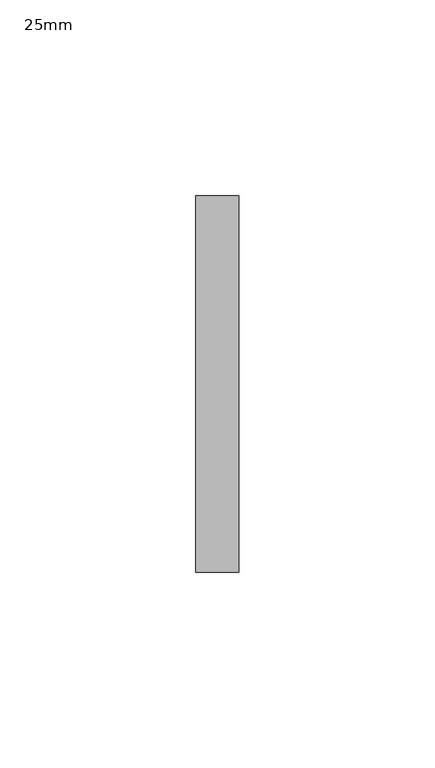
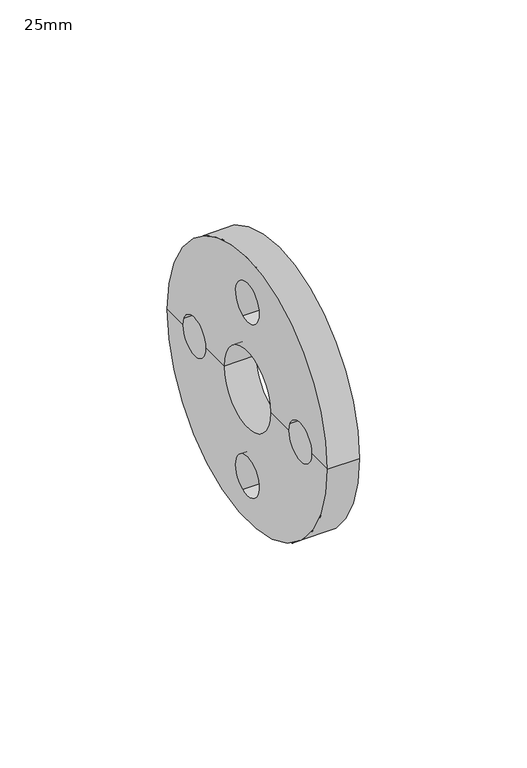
"""IFC4 building model written with IfcOpenShell, lengths in millimetres: pipe fitting geometry, Durapipe_PipeFitting_PVC_BackingFlange : 25mm."""

from ifc_helpers import new_model, si_unit, frame, origin, place, context, project, spatial, polyline, circle_curve, source, transform, mapped, element, save
from ifc_brep_helpers import plane_surface, cylinder_surface, revolved_surface, advanced_brep


def pipe_fitting_25mm_d84730b9(model_context):
    return source(origin(), model_context, "Body", "AdvancedBrep", [
        advanced_brep(
        [(-5.5, 48.0, 0.0), (5.5, 48.0, 0.0), (5.5, -48.0, 0.0), (-5.5, -48.0, 0.0), (-5.5, -38.6999879, 0.0), (-5.5, -38.1661595, -2.6929549), (-5.5, -24.7000077, 0.0), (-5.5, -14.0, 0.0), (-5.5, 14.0, 0.0), (-5.5, 24.7000077, 0.0), (-5.5, 25.2338361, -2.6694152), (-5.5, 38.6999879, 0.0), (-5.5, 2.6929549, -38.1661595), (-5.5, -2.6694152, -25.2338361), (-5.5, 38.1661595, 2.6929549), (-5.5, -25.2338361, 2.6694152), (-5.5, -2.6929549, 38.1661595), (-5.5, 2.6694152, 25.2338361), (5.5, 14.0, 0.0), (5.5, -14.0, 0.0), (5.5, -24.7000077, 0.0), (5.5, -38.1661595, -2.6929549), (5.5, -38.6999879, 0.0), (5.5, 38.6999879, 0.0), (5.5, 25.2338361, -2.6694152), (5.5, 24.7000077, 0.0), (5.5, -2.6694152, -25.2338361), (5.5, 2.6929549, -38.1661595), (5.5, 38.1661595, 2.6929549), (5.5, -25.2338361, 2.6694152), (5.5, 2.6694152, 25.2338361), (5.5, -2.6929549, 38.1661595)],
        [
            (0, 1),
            (1, 2, circle_curve(frame((5.5, 0.0, 0.0), z_axis=(-1.0, 0.0, 0.0), x_axis=(0.0, 1.0, 0.0)), 48.0)),
            (2, 3),
            (3, 0, circle_curve(frame((-5.5, 0.0, 0.0), z_axis=(1.0, 0.0, 0.0), x_axis=(0.0, 1.0, 0.0)), 48.0)),
            (0, 3, circle_curve(frame((-5.5, 0.0, 0.0), z_axis=(1.0, 0.0, 0.0), x_axis=(0.0, 1.0, 0.0)), 48.0)),
            (2, 1, circle_curve(frame((5.5, 0.0, 0.0), z_axis=(-1.0, 0.0, 0.0), x_axis=(0.0, 1.0, 0.0)), 48.0)),
            (3, 4),
            (4, 5, circle_curve(frame((-5.5, -31.6999978, -0.0117699), z_axis=(1.0, 0.0, 0.0), x_axis=(0.0, -0.9237373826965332, -0.38302643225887)), 7.0)),
            (5, 6, circle_curve(frame((-5.5, -31.6999978, -0.0117699), z_axis=(1.0, 0.0, 0.0), x_axis=(0.0, -0.9237373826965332, -0.38302643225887)), 7.0)),
            (6, 7),
            (7, 8, circle_curve(frame((-5.5, 0.0, 0.0), z_axis=(1.0, 0.0, 0.0), x_axis=(0.0, 1.0, 0.0)), 14.0)),
            (8, 9),
            (9, 10, circle_curve(frame((-5.5, 31.6999978, 0.0117699), z_axis=(1.0, 0.0, 0.0), x_axis=(0.0, 0.92373738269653, 0.3830264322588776)), 7.0)),
            (10, 11, circle_curve(frame((-5.5, 31.6999978, 0.0117699), z_axis=(1.0, 0.0, 0.0), x_axis=(0.0, 0.92373738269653, 0.3830264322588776)), 7.0)),
            (11, 0),
            (12, 13, circle_curve(frame((-5.5, 0.0117699, -31.6999978), z_axis=(1.0, 0.0, 0.0), x_axis=(0.0, 0.3830264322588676, -0.9237373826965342)), 7.0)),
            (13, 12, circle_curve(frame((-5.5, 0.0117699, -31.6999978), z_axis=(1.0, 0.0, 0.0), x_axis=(0.0, 0.3830264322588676, -0.9237373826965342)), 7.0)),
            (11, 14, circle_curve(frame((-5.5, 31.6999978, 0.0117699), z_axis=(1.0, 0.0, 0.0), x_axis=(0.0, 0.92373738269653, 0.3830264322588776)), 7.0)),
            (14, 9, circle_curve(frame((-5.5, 31.6999978, 0.0117699), z_axis=(1.0, 0.0, 0.0), x_axis=(0.0, 0.92373738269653, 0.3830264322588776)), 7.0)),
            (8, 7, circle_curve(frame((-5.5, 0.0, 0.0), z_axis=(1.0, 0.0, 0.0), x_axis=(0.0, 1.0, 0.0)), 14.0)),
            (6, 15, circle_curve(frame((-5.5, -31.6999978, -0.0117699), z_axis=(1.0, 0.0, 0.0), x_axis=(0.0, -0.9237373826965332, -0.38302643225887)), 7.0)),
            (15, 4, circle_curve(frame((-5.5, -31.6999978, -0.0117699), z_axis=(1.0, 0.0, 0.0), x_axis=(0.0, -0.9237373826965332, -0.38302643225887)), 7.0)),
            (16, 17, circle_curve(frame((-5.5, -0.0117699, 31.6999978), z_axis=(1.0, 0.0, 0.0), x_axis=(0.0, -0.3830264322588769, 0.9237373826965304)), 7.0)),
            (17, 16, circle_curve(frame((-5.5, -0.0117699, 31.6999978), z_axis=(1.0, 0.0, 0.0), x_axis=(0.0, -0.3830264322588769, 0.9237373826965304)), 7.0)),
            (18, 8),
            (7, 19),
            (19, 18, circle_curve(frame((5.5, 0.0, 0.0), z_axis=(1.0, 0.0, 0.0), x_axis=(0.0, 1.0, 0.0)), 14.0)),
            (18, 19, circle_curve(frame((5.5, 0.0, 0.0), z_axis=(1.0, 0.0, 0.0), x_axis=(0.0, 1.0, 0.0)), 14.0)),
            (19, 20),
            (20, 21, circle_curve(frame((5.5, -31.6999978, -0.0117699), z_axis=(-1.0, 0.0, 0.0), x_axis=(0.0, -0.9237373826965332, -0.38302643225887)), 7.0)),
            (21, 22, circle_curve(frame((5.5, -31.6999978, -0.0117699), z_axis=(-1.0, 0.0, 0.0), x_axis=(0.0, -0.9237373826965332, -0.38302643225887)), 7.0)),
            (22, 2),
            (1, 23),
            (23, 24, circle_curve(frame((5.5, 31.6999978, 0.0117699), z_axis=(-1.0, 0.0, 0.0), x_axis=(0.0, 0.92373738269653, 0.3830264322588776)), 7.0)),
            (24, 25, circle_curve(frame((5.5, 31.6999978, 0.0117699), z_axis=(-1.0, 0.0, 0.0), x_axis=(0.0, 0.92373738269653, 0.3830264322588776)), 7.0)),
            (25, 18),
            (26, 27, circle_curve(frame((5.5, 0.0117699, -31.6999978), z_axis=(-1.0, 0.0, 0.0), x_axis=(0.0, 0.3830264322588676, -0.9237373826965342)), 7.0)),
            (27, 26, circle_curve(frame((5.5, 0.0117699, -31.6999978), z_axis=(-1.0, 0.0, 0.0), x_axis=(0.0, 0.3830264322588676, -0.9237373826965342)), 7.0)),
            (25, 28, circle_curve(frame((5.5, 31.6999978, 0.0117699), z_axis=(-1.0, 0.0, 0.0), x_axis=(0.0, 0.92373738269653, 0.3830264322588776)), 7.0)),
            (28, 23, circle_curve(frame((5.5, 31.6999978, 0.0117699), z_axis=(-1.0, 0.0, 0.0), x_axis=(0.0, 0.92373738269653, 0.3830264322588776)), 7.0)),
            (22, 29, circle_curve(frame((5.5, -31.6999978, -0.0117699), z_axis=(-1.0, 0.0, 0.0), x_axis=(0.0, -0.9237373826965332, -0.38302643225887)), 7.0)),
            (29, 20, circle_curve(frame((5.5, -31.6999978, -0.0117699), z_axis=(-1.0, 0.0, 0.0), x_axis=(0.0, -0.9237373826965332, -0.38302643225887)), 7.0)),
            (30, 31, circle_curve(frame((5.5, -0.0117699, 31.6999978), z_axis=(-1.0, 0.0, 0.0), x_axis=(0.0, -0.3830264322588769, 0.9237373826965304)), 7.0)),
            (31, 30, circle_curve(frame((5.5, -0.0117699, 31.6999978), z_axis=(-1.0, 0.0, 0.0), x_axis=(0.0, -0.3830264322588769, 0.9237373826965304)), 7.0)),
            (26, 13),
            (12, 27),
            (24, 10),
            (14, 28),
            (30, 17),
            (16, 31),
            (29, 15),
            (5, 21),
        ],
        [
            cylinder_surface(frame((-24.2738734, 0.0, 0.0), z_axis=(-1.0, 0.0, 0.0), x_axis=(0.0, 1.0, 0.0)), 48.0),
            plane_surface(frame((-5.5, 0.0, 0.0), z_axis=(-1.0, 0.0, 0.0), x_axis=(0.0, 1.0, 0.0))),
            revolved_surface(polyline([(-5.5, 14.0, 0.0), (5.5, 14.0, 0.0)]), (-24.2738734, 0.0, 0.0), (-1.0, 0.0, 0.0)),
            plane_surface(frame((5.5, 0.0, 0.0), z_axis=(1.0, 0.0, 0.0), x_axis=(0.0, 1.0, 0.0))),
            revolved_surface(polyline([(-5.500000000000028, 2.6929549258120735, -38.16615947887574), (5.499999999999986, 2.6929549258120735, -38.16615947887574)]), (44.5, 0.0117699, -31.6999978), (-1.0000000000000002, 0.0, 0.0)),
            revolved_surface(polyline([(-5.5, 38.16615947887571, 2.6929549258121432), (5.5, 38.16615947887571, 2.6929549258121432)]), (44.5, 31.6999978, 0.0117699), (-1.0, 0.0, 0.0)),
            revolved_surface(polyline([(-5.500000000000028, -2.6929549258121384, 38.16615947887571), (5.499999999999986, -2.6929549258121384, 38.16615947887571)]), (44.5, -0.0117699, 31.6999978), (-1.0000000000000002, 0.0, 0.0)),
            revolved_surface(polyline([(-5.5, -38.16615947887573, -2.69295492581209), (5.5, -38.16615947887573, -2.69295492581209)]), (44.5, -31.6999978, -0.0117699), (-1.0, 0.0, 0.0)),
        ],
        [
            (0, [[1, 2, 3, 4]]),
            (0, [[-1, 5, -3, 6]]),
            (1, [[-4, 7, 8, 9, 10, 11, 12, 13, 14, 15], [16, 17]]),
            (1, [[-5, -15, 18, 19, -12, 20, -10, 21, 22, -7], [23, 24]]),
            (2, [[25, -11, 26, 27]]),
            (2, [[-25, 28, -26, -20]]),
            (3, [[-27, 29, 30, 31, 32, -2, 33, 34, 35, 36], [37, 38]]),
            (3, [[-28, -36, 39, 40, -33, -6, -32, 41, 42, -29], [43, 44]]),
            (4, [[45, -16, 46, -37]]),
            (4, [[-45, -38, -46, -17]]),
            (5, [[47, -13, -19, 48, -39, -35]]),
            (5, [[-47, -34, -40, -48, -18, -14]]),
            (6, [[49, -23, 50, -43]]),
            (6, [[-49, -44, -50, -24]]),
            (7, [[51, -21, -9, 52, -30, -42]]),
            (7, [[-51, -41, -31, -52, -8, -22]]),
        ],
    ),
    ])


if __name__ == "__main__":
    model = new_model("IFC4")
    model_context = context("Model", 3, world=origin())
    ifc_project = project(units=[si_unit("LENGTHUNIT", "METRE", prefix="MILLI")], contexts=[model_context])
    site = spatial("IfcSite", under=ifc_project)
    building = spatial("IfcBuilding", under=site)
    placement = place(None, origin())
    pipe_fitting_25mm_shape = pipe_fitting_25mm_d84730b9(model_context)
    element("IfcPipeFitting", 1, ObjectType="Durapipe_PipeFitting_PVC_BackingFlange : 25mm", at=placement, inside=building, context=model_context, shape_type="MappedRepresentation", body=[
        mapped(pipe_fitting_25mm_shape, transform((0.0, 0.0, 0.0), x_axis=(1.0, 0.0, 0.0), y_axis=(0.0, 1.0, 0.0), z_axis=(0.0, 0.0, 1.0))),
    ])
    save(model, "model.ifc")
